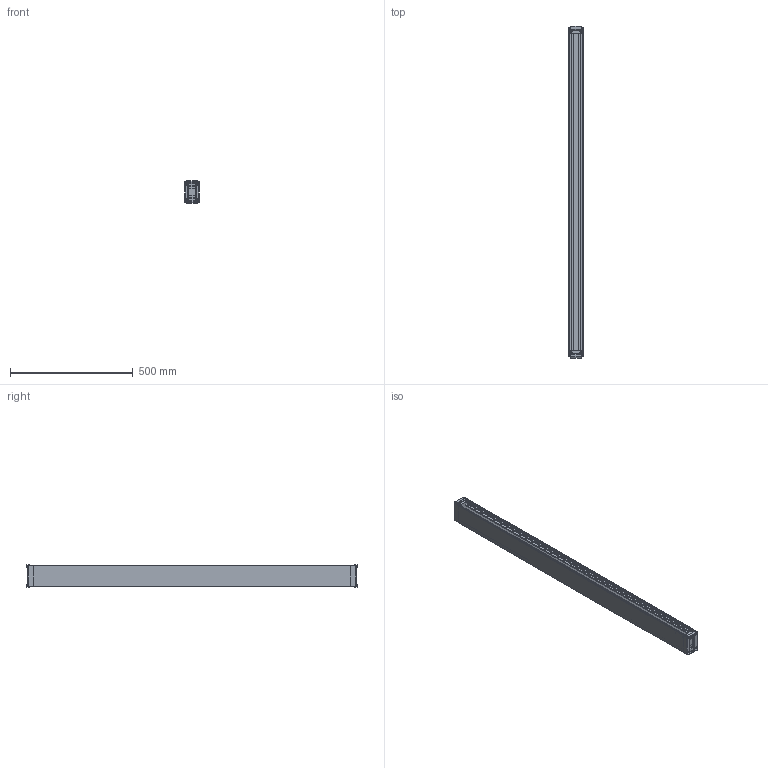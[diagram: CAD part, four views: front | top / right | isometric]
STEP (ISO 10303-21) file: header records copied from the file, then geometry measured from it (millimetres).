
FILE_DESCRIPTION (( 'STEP AP214' ), '1' );
FILE_NAME ('1001648.STEP', '2025-09-15T14:18:19', ( '' ), ( '' ), 'SwSTEP 2.0', 'SolidWorks 2025', '' );
FILE_SCHEMA (( 'AUTOMOTIVE_DESIGN' ));
Length unit declared in the file: millimetre
Products named in the file (1): 1001648
Bounding box: 60 x 1352.46 x 90 mm (x, y, z)
Volume: 2698164.9 mm3; surface area: 903926 mm2
Topology: 7 solids, 7 shells, 414 faces, 1176 edges, 776 vertices
Faces by surface type: plane 259, cylinder 147, bspline 8
Entity records: 13919 total; most frequent: CARTESIAN_POINT 2989, ORIENTED_EDGE 2352, DIRECTION 2188, EDGE_CURVE 1176, LINE 862, VECTOR 862, VERTEX_POINT 776, AXIS2_PLACEMENT_3D 663
